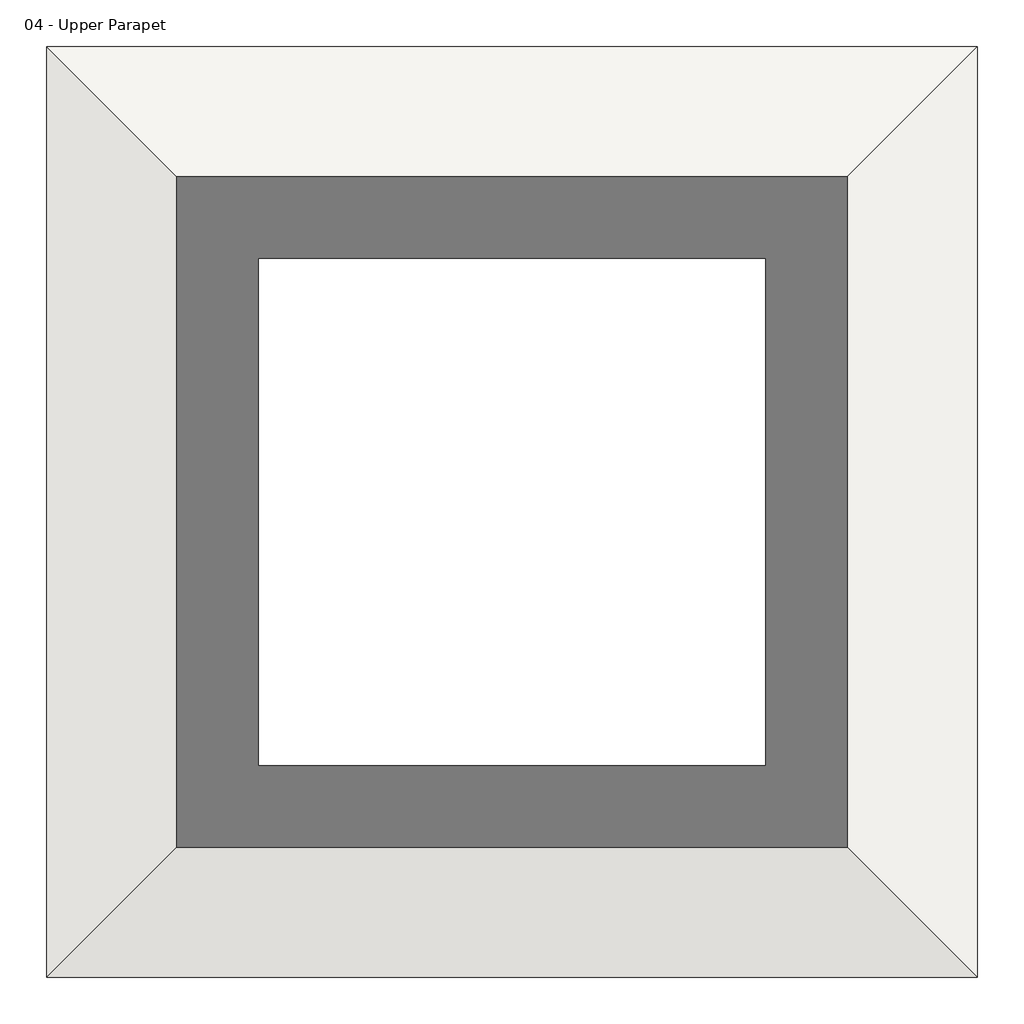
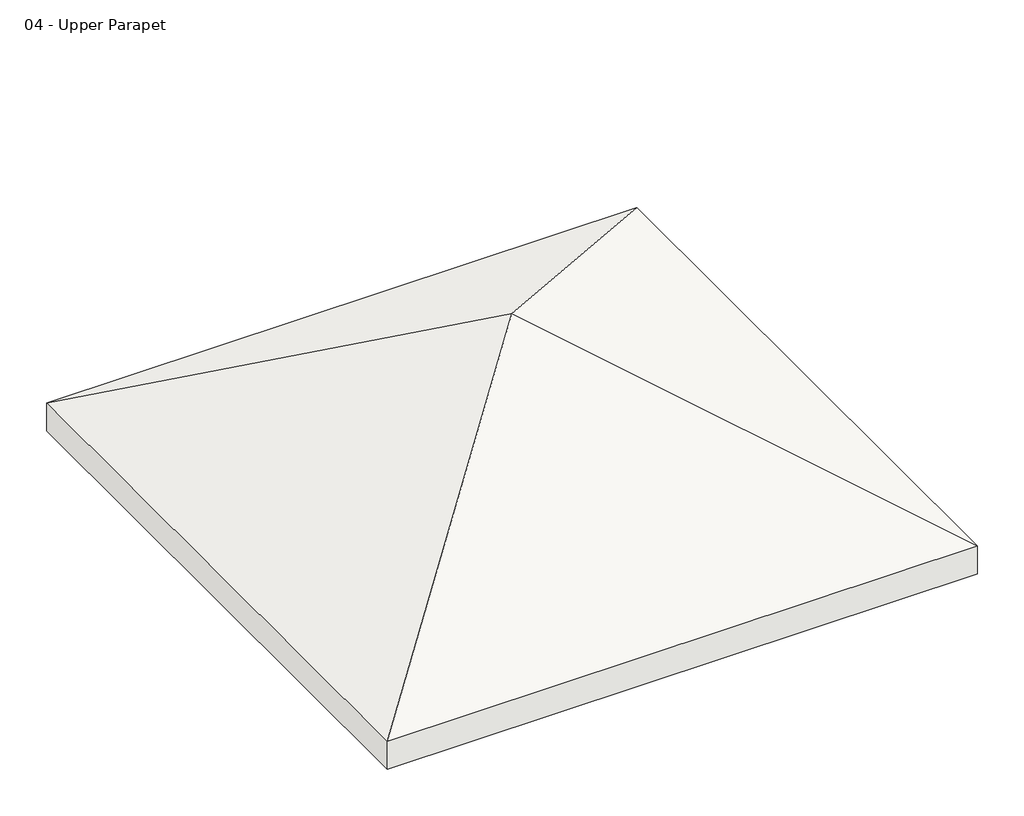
# One storey: 1 roof.
"""IFC4 building model written with IfcOpenShell, lengths in millimetres."""

import ifcopenshell
import ifcopenshell.guid

model = None  # the IFC model being written
_history = None  # IfcOwnerHistory: only IFC2X3 demands one
_inside = {}  # id of a spatial element -> (the spatial element, [elements in it])
_under = {}  # id of a project, library or spatial element -> (it, [spatial elements below it])
_declared = {}  # id of a project -> (the project, [libraries it declares])
_typed = {}  # id of a type object -> (the type object, [elements of that type])
_made_of = {}  # id of a material, layer set ... -> (it, [elements and type objects made of it])


def new_model(schema):
    """Start an empty IFC model of exactly this schema.

    Asked for "IFC4X3", IfcOpenShell would pick the latest addendum, in which some entities
    have other attributes; the version numbers below select the first issue.
    IFC2X3 requires an IfcOwnerHistory on every rooted entity: one is made here for all.
    """
    global model, _history
    if schema == "IFC4X3":
        model = ifcopenshell.file(schema_version=(4, 3, 0, 0))
    else:
        model = ifcopenshell.file(schema=schema)
    _inside.clear()
    _under.clear()
    _declared.clear()
    _typed.clear()
    _made_of.clear()
    _history = None
    if model.schema == "IFC2X3":
        org = make("IfcOrganization", Name="unknown")
        user = make(
            "IfcPersonAndOrganization",
            ThePerson=make("IfcPerson", FamilyName="unknown"),
            TheOrganization=org,
        )
        app = make(
            "IfcApplication",
            ApplicationDeveloper=org,
            Version="unknown",
            ApplicationFullName="unknown",
            ApplicationIdentifier="unknown",
        )
        _history = make(
            "IfcOwnerHistory",
            OwningUser=user,
            OwningApplication=app,
            ChangeAction="ADDED",
            CreationDate=0,
        )
    return model


def make(cls, **values):
    """One entity of the class cls with the attributes given. An attribute that is None is left unset."""
    return model.create_entity(
        cls, **{name: value for name, value in values.items() if value is not None}
    )


def rooted(cls, **values):
    """An entity with a GlobalId (a new one), such as an element, a storey or a relation."""
    return make(cls, GlobalId=ifcopenshell.guid.new(), OwnerHistory=_history, **values)


def si_unit(unit_type, name, prefix=None):
    """IfcSIUnit, for example si_unit("LENGTHUNIT", "METRE", prefix="MILLI")."""
    return make("IfcSIUnit", UnitType=unit_type, Prefix=prefix, Name=name)


def assignment(units):
    """IfcUnitAssignment: the units of a project."""
    return None if units is None else make("IfcUnitAssignment", Units=units)


def point(xyz):
    """IfcCartesianPoint."""
    return None if xyz is None else make("IfcCartesianPoint", Coordinates=xyz)


def direction(xyz):
    """IfcDirection."""
    return None if xyz is None else make("IfcDirection", DirectionRatios=xyz)


def frame(location, z_axis=None, x_axis=None):
    """IfcAxis2Placement3D, a coordinate frame: its origin and axes. An axis left out is left unset."""
    return make(
        "IfcAxis2Placement3D",
        Location=point(location),
        Axis=direction(z_axis),
        RefDirection=direction(x_axis),
    )


def origin():
    """The frame at (0, 0, 0) with its axes left unset."""
    return frame((0.0, 0.0, 0.0))


def place(relative_to, where):
    """IfcLocalPlacement: puts the frame where relative to a parent placement (None: the world)."""
    return make(
        "IfcLocalPlacement", PlacementRelTo=relative_to, RelativePlacement=where
    )


def context(
    kind, dimensions, precision=None, world=None, true_north=None, identifier=None
):
    """IfcGeometricRepresentationContext, for example the 3D "Model" context."""
    return make(
        "IfcGeometricRepresentationContext",
        ContextIdentifier=identifier,
        ContextType=kind,
        CoordinateSpaceDimension=dimensions,
        Precision=precision,
        WorldCoordinateSystem=world,
        TrueNorth=true_north,
    )


def project(units=None, contexts=None):
    """IfcProject with its units and contexts."""
    return rooted(
        "IfcProject",
        Name="project",
        RepresentationContexts=contexts,
        UnitsInContext=assignment(units),
    )


def spatial(cls, under=None, at=None, **own):
    """A site, building, storey or space (cls), placed at a placement, below another one or the project."""
    s = rooted(cls, ObjectPlacement=at, **own)
    if under is not None:
        _under.setdefault(under.id(), (under, []))[1].append(s)
    return s


def faces_of(points, faces, orient=None, outer=None):
    """IfcFace entities. A face is a list of loops; a loop is a list of indices into points, from 0.

    orient and outer hold one flag for each loop. By default every Orientation is true, the
    first loop of a face is its IfcFaceOuterBound and the others are IfcFaceBound.
    """
    made = []
    for i, loops in enumerate(faces):
        bounds = []
        for j, loop in enumerate(loops):
            is_outer = j == 0 if outer is None else outer[i][j]
            bounds.append(
                make(
                    "IfcFaceOuterBound" if is_outer else "IfcFaceBound",
                    Bound=make("IfcPolyLoop", Polygon=[points[k] for k in loop]),
                    Orientation=True if orient is None else orient[i][j],
                )
            )
        made.append(make("IfcFace", Bounds=bounds))
    return made


def faceted_brep(points, faces, orient=None, outer=None, voids=None):
    """IfcFacetedBrep: a solid bounded by flat faces; with voids (closed shells), ...WithVoids."""
    shared = [point(p) for p in points]
    hull = make("IfcClosedShell", CfsFaces=faces_of(shared, faces, orient, outer))
    if voids is None:
        return make("IfcFacetedBrep", Outer=hull)
    return make(
        "IfcFacetedBrepWithVoids",
        Outer=hull,
        Voids=[
            make(cls, CfsFaces=faces_of(shared, fs, o, b)) for cls, fs, o, b in voids
        ],
    )


def shape(context_of_items, identifier, shape_type, items):
    """IfcShapeRepresentation: the items that make up one representation, for example the "Body"."""
    return make(
        "IfcShapeRepresentation",
        ContextOfItems=context_of_items,
        RepresentationIdentifier=identifier,
        RepresentationType=shape_type,
        Items=items,
    )


def made_of(thing, what):
    """Note that an element or type object is made of a material, layer set ...; save() writes the relation."""
    if what is not None:
        _made_of.setdefault(what.id(), (what, []))[1].append(thing)
    return thing


def element(
    cls,
    number,
    at=None,
    inside=None,
    cuts=None,
    type_object=None,
    material=None,
    context=None,
    identifier="Body",
    shape_type=None,
    held_by="IfcProductDefinitionShape",
    body=None,
    shapes=None,
    **own,
):
    """One element of the class cls, such as IfcWall. Its Tag is "e" and its number.

    at: its placement. inside: the storey or other place that contains it. cuts: it is an
    opening in that element (IfcRelVoidsElement). A single representation is given by context,
    identifier, shape_type and body (its items); several are given by shapes. held_by: the class
    of the entity that holds the representations. save() writes the other relations.
    """
    e = rooted(cls, Tag="e%d" % number, ObjectPlacement=at, **own)
    if body is not None:
        shapes = [shape(context, identifier, shape_type, body)]
    if shapes is not None:
        e.Representation = make(held_by, Representations=shapes)
    if inside is not None:
        _inside.setdefault(inside.id(), (inside, []))[1].append(e)
    if cuts is not None:
        rooted(
            "IfcRelVoidsElement", RelatingBuildingElement=cuts, RelatedOpeningElement=e
        )
    if type_object is not None:
        _typed.setdefault(type_object.id(), (type_object, []))[1].append(e)
    return made_of(e, material)


def aggregate(whole, parts):
    """IfcRelAggregates: a whole, such as a stair, and the parts it consists of."""
    return rooted("IfcRelAggregates", RelatingObject=whole, RelatedObjects=parts)


def save(model, path):
    """Write the relations noted so far, then the file.

    IfcRelAggregates (storeys below a building ...), IfcRelContainedInSpatialStructure (elements
    in a storey), IfcRelDefinesByType, IfcRelAssociatesMaterial and IfcRelDeclares: one each for
    every whole, place, type object, material and project.
    """
    for whole, parts in _under.values():
        aggregate(whole, parts)
    for where, things in _inside.values():
        rooted(
            "IfcRelContainedInSpatialStructure",
            RelatedElements=things,
            RelatingStructure=where,
        )
    for kind, things in _typed.values():
        rooted("IfcRelDefinesByType", RelatedObjects=things, RelatingType=kind)
    for what, things in _made_of.values():
        rooted("IfcRelAssociatesMaterial", RelatedObjects=things, RelatingMaterial=what)
    for by, libraries in _declared.values():
        rooted("IfcRelDeclares", RelatingContext=by, RelatedDefinitions=libraries)
    model.write(path)


model = new_model("IFC4")

# Units and contexts
model_context = context("Model", 3, world=origin())
ifc_project = project(units=[si_unit("LENGTHUNIT", "METRE", prefix="MILLI")], contexts=[model_context])

# Site, building, storey
site = spatial("IfcSite", under=ifc_project)
building = spatial("IfcBuilding", under=site)
storey = spatial("IfcBuildingStorey", under=building, Name="04 - Upper Parapet", Elevation=8000.0)

# Roof
placement = place(None, origin())
element("IfcRoof", 1, ObjectType="Generic - 400mm", at=placement, inside=storey, context=model_context, shape_type="Brep", body=[
    faceted_brep([(10255.5272279, -15006.9313057, 8000.0), (14818.0272279, -10444.4313057, 10634.1606032), (19380.5272279, -15006.9313057, 8000.0), (19380.5272279, -5881.9313057, 8000.0), (10255.5272279, -5881.9313057, 8000.0), (10255.5272279, -15006.9313057, 8461.8802154), (19380.5272279, -15006.9313057, 8461.8802154), (14818.0272279, -10444.4313057, 11096.0408185), (19380.5272279, -5881.9313057, 8461.8802154), (10255.5272279, -5881.9313057, 8461.8802154)], [[[0, 1, 2]], [[2, 1, 3]], [[3, 1, 4]], [[1, 0, 4]], [[5, 6, 7]], [[6, 8, 7]], [[8, 9, 7]], [[5, 7, 9]], [[2, 6, 5, 0]], [[3, 8, 6, 2]], [[4, 9, 8, 3]], [[0, 5, 9, 4]]]),
])

save(model, "model.ifc")
